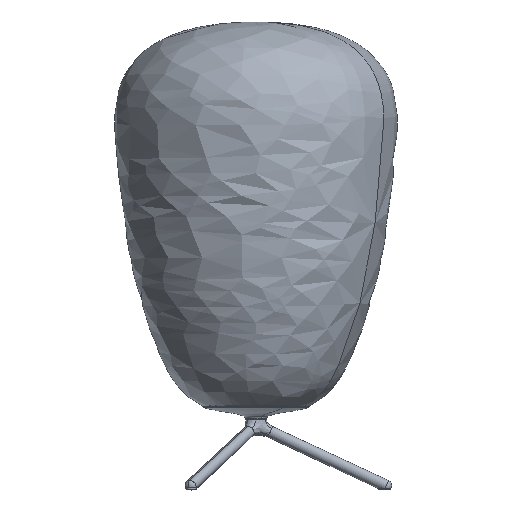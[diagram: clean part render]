
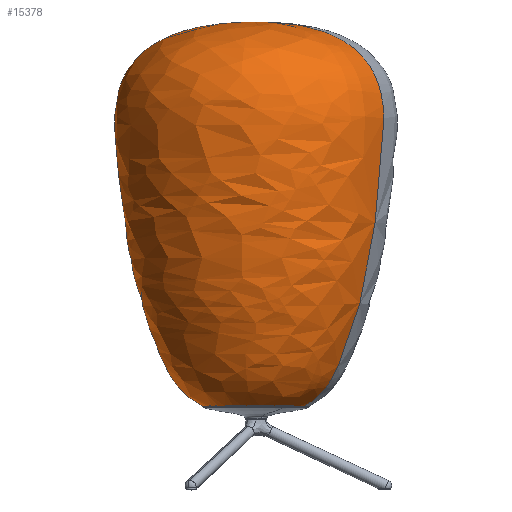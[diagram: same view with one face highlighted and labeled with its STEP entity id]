
A CAD part, top view. The second image highlights one B-rep face of the part: STEP entity #15378.
In plain terms, the highlighted free-form (B-spline) face has degree [3, 3] with [8, 4] control points.
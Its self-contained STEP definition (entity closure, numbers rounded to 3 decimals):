
#118 = CARTESIAN_POINT ( 'NONE',  ( -149.335, 80.917, -7.792 ) ) ;
#129 = CARTESIAN_POINT ( 'NONE',  ( -272.64, 156.977, 167.799 ) ) ;
#293 = CARTESIAN_POINT ( 'NONE',  ( -86.754, 397.52, 21.762 ) ) ;
#308 = CARTESIAN_POINT ( 'NONE',  ( -83.288, 80.917, 176.473 ) ) ;
#489 = CARTESIAN_POINT ( 'NONE',  ( -181.885, 69.812, 96.498 ) ) ;
#851 = CARTESIAN_POINT ( 'NONE',  ( -167.894, 66.053, 85.506 ) ) ;
#879 = B_SPLINE_CURVE_WITH_KNOTS ( 'NONE', 3,
 ( #31786, #23710, #9838, #20936, #7145, #18218, #13459, #33029 ),
 .UNSPECIFIED., .F., .F.,
 ( 4, 1, 1, 1, 1, 4 ),
 ( 0.125, 0.303, 0.379, 0.826, 0.893, 1. ),
 .UNSPECIFIED. ) ;
#980 = ORIENTED_EDGE ( 'NONE', *, *, #10590, .F. ) ;
#1824 = CARTESIAN_POINT ( 'NONE',  ( -86.754, 397.52, 21.762 ) ) ;
#2865 = CARTESIAN_POINT ( 'NONE',  ( -191.647, 227.631, -27.776 ) ) ;
#3031 = CARTESIAN_POINT ( 'NONE',  ( -128.482, 66.053, 2.057 ) ) ;
#3369 = EDGE_LOOP ( 'NONE', ( #8368, #14905, #980 ) ) ;
#3486 = CIRCLE ( 'NONE', #19728, 46.144 ) ;
#4294 = VERTEX_POINT ( 'NONE', #8032 ) ;
#5609 = CARTESIAN_POINT ( 'NONE',  ( -80.941, 227.63, 281.083 ) ) ;
#5980 = CARTESIAN_POINT ( 'NONE',  ( -208.444, 80.918, 117.364 ) ) ;
#6149 = CARTESIAN_POINT ( 'NONE',  ( -290.723, 227.632, 182.006 ) ) ;
#6233 =( BOUNDED_SURFACE ( )  B_SPLINE_SURFACE ( 3, 3, ( 
 ( #36077, #28066, #25274, #11395 ),
 ( #16851, #22154, #33346, #14293 ),
 ( #11573, #14476, #31150, #22691 ),
 ( #16669, #5609, #6149, #2865 ),
 ( #25104, #28399, #129, #19600 ),
 ( #19779, #308, #5980, #33697 ),
 ( #17018, #25451, #489, #33896 ),
 ( #23058, #25812, #851, #11938 ) ),
 .UNSPECIFIED., .F., .F., .T. ) 
 B_SPLINE_SURFACE_WITH_KNOTS ( ( 4, 1, 1, 1, 1, 4 ),
 ( 4, 4 ),
 ( 0.125, 0.303, 0.379, 0.826, 0.893, 1. ),
 ( 0., 1. ),
 .UNSPECIFIED. ) 
 GEOMETRIC_REPRESENTATION_ITEM ( )  RATIONAL_B_SPLINE_SURFACE ( (
 ( 1., 0.333, 0.333, 1.),
 ( 1., 0.333, 0.333, 1.),
 ( 1., 0.333, 0.333, 1.),
 ( 1., 0.333, 0.333, 1.),
 ( 1., 0.333, 0.333, 1.),
 ( 1., 0.333, 0.333, 1.),
 ( 1., 0.333, 0.333, 1.),
 ( 1., 0.333, 0.333, 1.) ) ) 
 REPRESENTATION_ITEM ( '' )  SURFACE ( )  );
#7145 = CARTESIAN_POINT ( 'NONE',  ( 8.835, 156.974, 66.908 ) ) ;
#8032 = CARTESIAN_POINT ( 'NONE',  ( -128.482, 66.053, 2.057 ) ) ;
#8368 = ORIENTED_EDGE ( 'NONE', *, *, #28165, .F. ) ;
#9838 = CARTESIAN_POINT ( 'NONE',  ( 26.692, 343.819, 75.341 ) ) ;
#10590 = EDGE_CURVE ( 'NONE', #21798, #4294, #3486, .T. ) ;
#11395 = CARTESIAN_POINT ( 'NONE',  ( -86.754, 397.52, 21.762 ) ) ;
#11573 = CARTESIAN_POINT ( 'NONE',  ( 26.692, 343.819, 75.341 ) ) ;
#11938 = CARTESIAN_POINT ( 'NONE',  ( -128.482, 66.053, 2.057 ) ) ;
#13459 = CARTESIAN_POINT ( 'NONE',  ( -37.838, 69.81, 44.866 ) ) ;
#14111 = CARTESIAN_POINT ( 'NONE',  ( -135.677, 69.811, -1.341 ) ) ;
#14293 = CARTESIAN_POINT ( 'NONE',  ( -171.304, 397.52, -18.169 ) ) ;
#14326 = CARTESIAN_POINT ( 'NONE',  ( -86.758, 66.052, 21.762 ) ) ;
#14476 = CARTESIAN_POINT ( 'NONE',  ( -80.466, 343.82, 302.235 ) ) ;
#14905 = ORIENTED_EDGE ( 'NONE', *, *, #27504, .T. ) ;
#15378 = ADVANCED_FACE ( 'NONE', ( #34079 ), #6233, .F. ) ;
#16669 = CARTESIAN_POINT ( 'NONE',  ( 18.135, 227.629, 71.301 ) ) ;
#16851 = CARTESIAN_POINT ( 'NONE',  ( -2.203, 397.519, 61.694 ) ) ;
#17018 = CARTESIAN_POINT ( 'NONE',  ( -37.838, 69.81, 44.866 ) ) ;
#18218 = CARTESIAN_POINT ( 'NONE',  ( -24.179, 80.916, 51.317 ) ) ;
#18223 = B_SPLINE_CURVE_WITH_KNOTS ( 'NONE', 3,
 ( #293, #25092, #30067, #19413, #27857, #118, #14111, #3031 ),
 .UNSPECIFIED., .F., .F.,
 ( 4, 1, 1, 1, 1, 4 ),
 ( 0.125, 0.303, 0.379, 0.826, 0.893, 1. ),
 .UNSPECIFIED. ) ;
#19413 = CARTESIAN_POINT ( 'NONE',  ( -191.647, 227.631, -27.776 ) ) ;
#19600 = CARTESIAN_POINT ( 'NONE',  ( -182.348, 156.976, -23.384 ) ) ;
#19728 = AXIS2_PLACEMENT_3D ( 'NONE', #14326, #34118, #33930 ) ;
#19779 = CARTESIAN_POINT ( 'NONE',  ( -24.179, 80.916, 51.317 ) ) ;
#20936 = CARTESIAN_POINT ( 'NONE',  ( 18.135, 227.629, 71.301 ) ) ;
#21798 = VERTEX_POINT ( 'NONE', #31471 ) ;
#22154 = CARTESIAN_POINT ( 'NONE',  ( -82.067, 397.519, 230.795 ) ) ;
#22691 = CARTESIAN_POINT ( 'NONE',  ( -200.201, 343.821, -31.817 ) ) ;
#23058 = CARTESIAN_POINT ( 'NONE',  ( -45.033, 66.052, 41.468 ) ) ;
#23710 = CARTESIAN_POINT ( 'NONE',  ( -2.203, 397.519, 61.694 ) ) ;
#25092 = CARTESIAN_POINT ( 'NONE',  ( -171.304, 397.52, -18.169 ) ) ;
#25104 = CARTESIAN_POINT ( 'NONE',  ( 8.835, 156.974, 66.908 ) ) ;
#25274 = CARTESIAN_POINT ( 'NONE',  ( -86.754, 397.52, 21.762 ) ) ;
#25451 = CARTESIAN_POINT ( 'NONE',  ( -84.046, 69.811, 142.705 ) ) ;
#25812 = CARTESIAN_POINT ( 'NONE',  ( -84.445, 66.052, 124.918 ) ) ;
#27504 = EDGE_CURVE ( 'NONE', #34448, #4294, #18223, .T. ) ;
#27857 = CARTESIAN_POINT ( 'NONE',  ( -182.348, 156.976, -23.384 ) ) ;
#28066 = CARTESIAN_POINT ( 'NONE',  ( -86.754, 397.52, 21.762 ) ) ;
#28165 = EDGE_CURVE ( 'NONE', #34448, #21798, #879, .T. ) ;
#28399 = CARTESIAN_POINT ( 'NONE',  ( -81.457, 156.975, 258.091 ) ) ;
#30067 = CARTESIAN_POINT ( 'NONE',  ( -200.201, 343.821, -31.817 ) ) ;
#31150 = CARTESIAN_POINT ( 'NONE',  ( -307.359, 343.822, 195.077 ) ) ;
#31471 = CARTESIAN_POINT ( 'NONE',  ( -45.033, 66.052, 41.468 ) ) ;
#31786 = CARTESIAN_POINT ( 'NONE',  ( -86.754, 397.52, 21.762 ) ) ;
#33029 = CARTESIAN_POINT ( 'NONE',  ( -45.033, 66.052, 41.468 ) ) ;
#33346 = CARTESIAN_POINT ( 'NONE',  ( -251.168, 397.521, 150.932 ) ) ;
#33697 = CARTESIAN_POINT ( 'NONE',  ( -149.335, 80.917, -7.792 ) ) ;
#33896 = CARTESIAN_POINT ( 'NONE',  ( -135.677, 69.811, -1.341 ) ) ;
#33930 = DIRECTION ( 'NONE',  ( 0.904, 0., 0.427 ) ) ;
#34079 = FACE_OUTER_BOUND ( 'NONE', #3369, .T. ) ;
#34118 = DIRECTION ( 'NONE',  ( 0., -1., 0. ) ) ;
#34448 = VERTEX_POINT ( 'NONE', #1824 ) ;
#36077 = CARTESIAN_POINT ( 'NONE',  ( -86.754, 397.52, 21.762 ) ) ;
